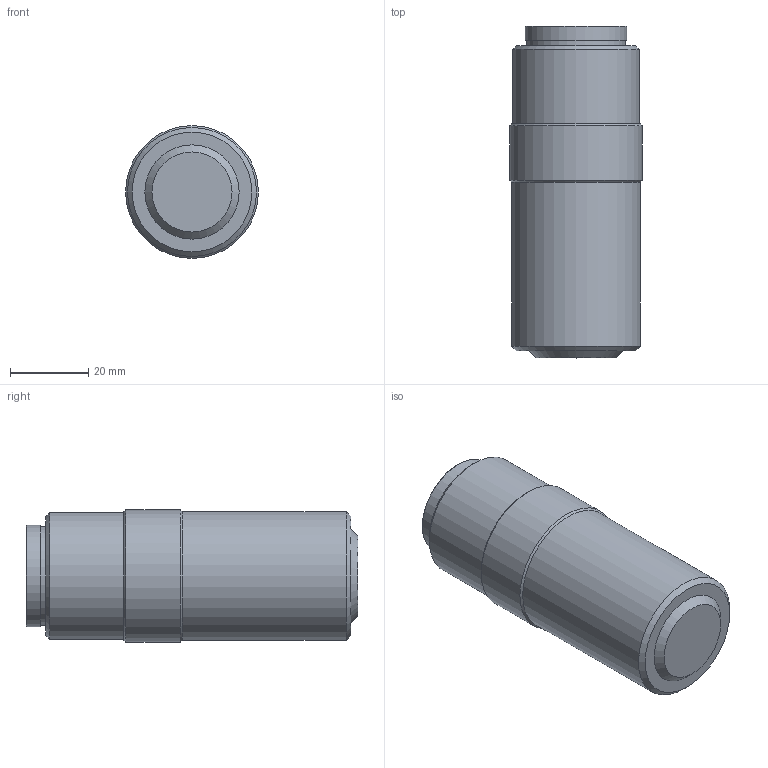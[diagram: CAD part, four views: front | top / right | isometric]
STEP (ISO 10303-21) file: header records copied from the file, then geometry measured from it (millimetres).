
FILE_DESCRIPTION((''),'1');
FILE_NAME('C:/Users/y.nozaki/Desktop/PAL-50-NUV-B.stp', '2020-07-03T01:12:08',(''), ('シグマ光機'), 'KCM Version 1.1.2450.0', 'KeyCreator', '');
FILE_SCHEMA(('CONFIG_CONTROL_DESIGN'));
Length unit declared in the file: millimetre
Bounding box: 34 x 84.9 x 34 mm (x, y, z)
Volume: 70242.2 mm3; surface area: 10234.1 mm2
Topology: 1 solids, 1 shells, 17 faces, 30 edges, 22 vertices
Faces by surface type: cone 6, plane 6, cylinder 5
Full cylindrical faces by diameter (mm): 25.294 x1, 26 x1, 32.5 x1, 33 x1, 34 x1
Entity records: 486 total; most frequent: DIRECTION 82, CARTESIAN_POINT 64, ORIENTED_EDGE 54, AXIS2_PLACEMENT_3D 34, EDGE_CURVE 27, EDGE_LOOP 21, FACE_OUTER_BOUND 17, ADVANCED_FACE 17
